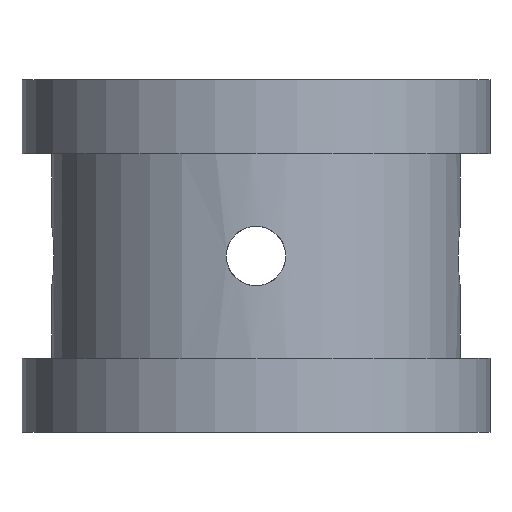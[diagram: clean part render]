
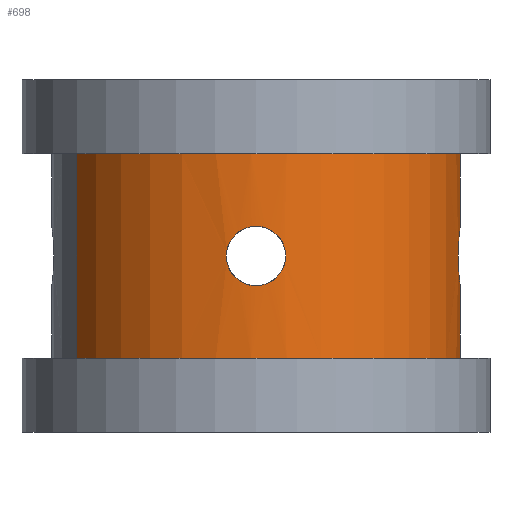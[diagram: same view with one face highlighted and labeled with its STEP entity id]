
A CAD part, front view. The second image highlights one B-rep face of the part: STEP entity #698.
In plain terms, the highlighted cylindrical face has radius 5.5 mm (diameter 11 mm), a partial arc.
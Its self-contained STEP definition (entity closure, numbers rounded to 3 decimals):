
#402=AXIS2_PLACEMENT_3D('Cylinder Axis2P3D',#399,#400,#401) ;
#671=AXIS2_PLACEMENT_3D('Circle Axis2P3D',#669,#670,$) ;
#681=AXIS2_PLACEMENT_3D('Circle Axis2P3D',#679,#680,$) ;
#399=CARTESIAN_POINT('Axis2P3D Location',(0.,0.,0.)) ;
#408=CARTESIAN_POINT('Vertex',(4.827,2.637,2.75)) ;
#410=CARTESIAN_POINT('Vertex',(-4.827,-2.637,2.75)) ;
#413=CARTESIAN_POINT('Line Origine',(4.827,2.637,0.)) ;
#417=CARTESIAN_POINT('Vertex',(4.827,2.637,-2.75)) ;
#424=CARTESIAN_POINT('Vertex',(-4.827,-2.637,-2.75)) ;
#427=CARTESIAN_POINT('Line Origine',(-4.827,-2.637,0.)) ;
#482=CARTESIAN_POINT('Vertex',(5.442,0.8,0.)) ;
#486=CARTESIAN_POINT('Control Point',(5.442,-0.8,0.)) ;
#487=CARTESIAN_POINT('Control Point',(5.442,-0.8,0.205)) ;
#488=CARTESIAN_POINT('Control Point',(5.451,-0.734,0.41)) ;
#489=CARTESIAN_POINT('Control Point',(5.471,-0.603,0.586)) ;
#490=CARTESIAN_POINT('Control Point',(5.511,-0.168,0.884)) ;
#491=CARTESIAN_POINT('Control Point',(5.502,0.382,0.805)) ;
#492=CARTESIAN_POINT('Control Point',(5.462,0.661,0.597)) ;
#493=CARTESIAN_POINT('Control Point',(5.442,0.8,0.298)) ;
#494=CARTESIAN_POINT('Control Point',(5.442,0.8,0.)) ;
#495=CARTESIAN_POINT('Vertex',(5.442,-0.8,0.)) ;
#512=CARTESIAN_POINT('Control Point',(5.442,0.8,0.)) ;
#513=CARTESIAN_POINT('Control Point',(5.442,0.8,-0.205)) ;
#514=CARTESIAN_POINT('Control Point',(5.451,0.734,-0.41)) ;
#515=CARTESIAN_POINT('Control Point',(5.471,0.603,-0.586)) ;
#516=CARTESIAN_POINT('Control Point',(5.511,0.168,-0.884)) ;
#517=CARTESIAN_POINT('Control Point',(5.502,-0.382,-0.805)) ;
#518=CARTESIAN_POINT('Control Point',(5.462,-0.661,-0.597)) ;
#519=CARTESIAN_POINT('Control Point',(5.442,-0.8,-0.298)) ;
#520=CARTESIAN_POINT('Control Point',(5.442,-0.8,0.)) ;
#598=CARTESIAN_POINT('Vertex',(-0.8,-5.442,0.)) ;
#602=CARTESIAN_POINT('Control Point',(0.8,-5.442,0.)) ;
#603=CARTESIAN_POINT('Control Point',(0.8,-5.442,-0.205)) ;
#604=CARTESIAN_POINT('Control Point',(0.734,-5.451,-0.41)) ;
#605=CARTESIAN_POINT('Control Point',(0.603,-5.471,-0.586)) ;
#606=CARTESIAN_POINT('Control Point',(0.168,-5.511,-0.884)) ;
#607=CARTESIAN_POINT('Control Point',(-0.382,-5.502,-0.805)) ;
#608=CARTESIAN_POINT('Control Point',(-0.661,-5.462,-0.597)) ;
#609=CARTESIAN_POINT('Control Point',(-0.8,-5.442,-0.298)) ;
#610=CARTESIAN_POINT('Control Point',(-0.8,-5.442,0.)) ;
#611=CARTESIAN_POINT('Vertex',(0.8,-5.442,0.)) ;
#628=CARTESIAN_POINT('Control Point',(-0.8,-5.442,0.)) ;
#629=CARTESIAN_POINT('Control Point',(-0.8,-5.442,0.205)) ;
#630=CARTESIAN_POINT('Control Point',(-0.734,-5.451,0.41)) ;
#631=CARTESIAN_POINT('Control Point',(-0.603,-5.471,0.586)) ;
#632=CARTESIAN_POINT('Control Point',(-0.168,-5.511,0.884)) ;
#633=CARTESIAN_POINT('Control Point',(0.382,-5.502,0.805)) ;
#634=CARTESIAN_POINT('Control Point',(0.661,-5.462,0.597)) ;
#635=CARTESIAN_POINT('Control Point',(0.8,-5.442,0.298)) ;
#636=CARTESIAN_POINT('Control Point',(0.8,-5.442,0.)) ;
#669=CARTESIAN_POINT('Axis2P3D Location',(0.,0.,2.75)) ;
#679=CARTESIAN_POINT('Axis2P3D Location',(0.,0.,-2.75)) ;
#400=DIRECTION('Axis2P3D Direction',(0.,0.,1.)) ;
#401=DIRECTION('Axis2P3D XDirection',(-0.878,-0.479,-0.)) ;
#414=DIRECTION('Vector Direction',(0.,0.,1.)) ;
#428=DIRECTION('Vector Direction',(0.,0.,1.)) ;
#670=DIRECTION('Axis2P3D Direction',(0.,0.,1.)) ;
#680=DIRECTION('Axis2P3D Direction',(0.,0.,1.)) ;
#415=VECTOR('Line Direction',#414,1.) ;
#429=VECTOR('Line Direction',#428,1.) ;
#685=ORIENTED_EDGE('',*,*,#673,.F.) ;
#686=ORIENTED_EDGE('',*,*,#431,.T.) ;
#687=ORIENTED_EDGE('',*,*,#683,.T.) ;
#688=ORIENTED_EDGE('',*,*,#419,.F.) ;
#691=ORIENTED_EDGE('',*,*,#613,.T.) ;
#692=ORIENTED_EDGE('',*,*,#637,.T.) ;
#695=ORIENTED_EDGE('',*,*,#521,.T.) ;
#696=ORIENTED_EDGE('',*,*,#497,.T.) ;
#693=FACE_BOUND('',#690,.T.) ;
#697=FACE_BOUND('',#694,.T.) ;
#698=ADVANCED_FACE('\X2\96F64EF651E04F554F53\X0\',(#689,#693,#697),#403,.T.) ;
#485=B_SPLINE_CURVE_WITH_KNOTS('',5,(#486,#487,#488,#489,#490,#491,#492,#493,#494),.UNSPECIFIED.,.F.,.U.,(6,3,6),(0.,1.45,3.559),.UNSPECIFIED.) ;
#511=B_SPLINE_CURVE_WITH_KNOTS('',5,(#512,#513,#514,#515,#516,#517,#518,#519,#520),.UNSPECIFIED.,.F.,.U.,(6,3,6),(0.,1.45,3.559),.UNSPECIFIED.) ;
#601=B_SPLINE_CURVE_WITH_KNOTS('',5,(#602,#603,#604,#605,#606,#607,#608,#609,#610),.UNSPECIFIED.,.F.,.U.,(6,3,6),(0.,1.45,3.559),.UNSPECIFIED.) ;
#627=B_SPLINE_CURVE_WITH_KNOTS('',5,(#628,#629,#630,#631,#632,#633,#634,#635,#636),.UNSPECIFIED.,.F.,.U.,(6,3,6),(0.,1.45,3.559),.UNSPECIFIED.) ;
#672=CIRCLE('generated circle',#671,5.5) ;
#682=CIRCLE('generated circle',#681,5.5) ;
#403=CYLINDRICAL_SURFACE('generated cylinder',#402,5.5) ;
#419=EDGE_CURVE('',#409,#418,#416,.F.) ;
#431=EDGE_CURVE('',#411,#425,#430,.F.) ;
#497=EDGE_CURVE('',#496,#483,#485,.T.) ;
#521=EDGE_CURVE('',#483,#496,#511,.T.) ;
#613=EDGE_CURVE('',#612,#599,#601,.T.) ;
#637=EDGE_CURVE('',#599,#612,#627,.T.) ;
#673=EDGE_CURVE('',#411,#409,#672,.T.) ;
#683=EDGE_CURVE('',#425,#418,#682,.T.) ;
#684=EDGE_LOOP('',(#685,#686,#687,#688)) ;
#690=EDGE_LOOP('',(#691,#692)) ;
#694=EDGE_LOOP('',(#695,#696)) ;
#689=FACE_OUTER_BOUND('',#684,.T.) ;
#416=LINE('Line',#413,#415) ;
#430=LINE('Line',#427,#429) ;
#409=VERTEX_POINT('',#408) ;
#411=VERTEX_POINT('',#410) ;
#418=VERTEX_POINT('',#417) ;
#425=VERTEX_POINT('',#424) ;
#483=VERTEX_POINT('',#482) ;
#496=VERTEX_POINT('',#495) ;
#599=VERTEX_POINT('',#598) ;
#612=VERTEX_POINT('',#611) ;
